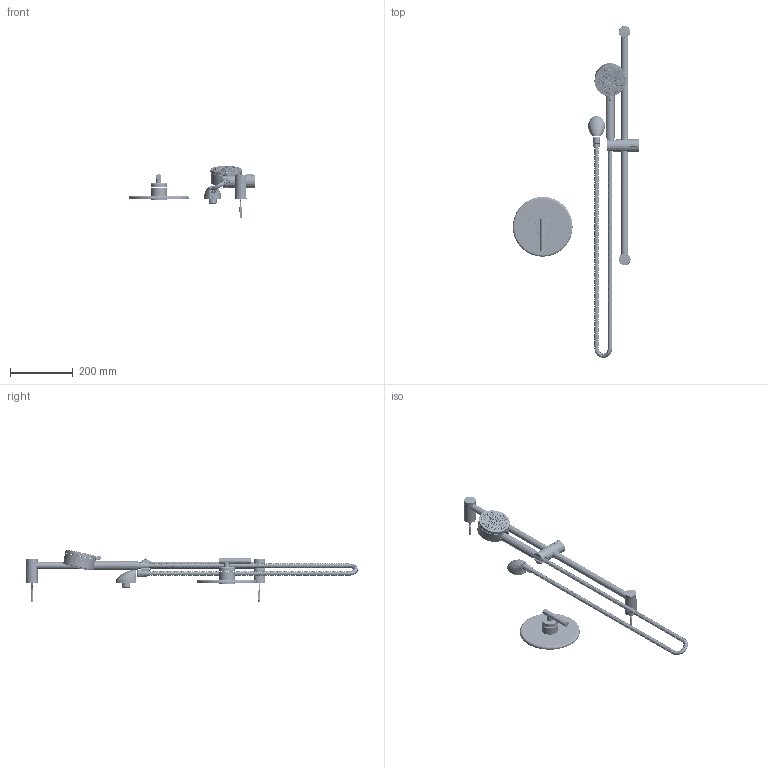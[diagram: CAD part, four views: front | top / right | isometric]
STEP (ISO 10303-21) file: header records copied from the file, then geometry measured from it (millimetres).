
FILE_DESCRIPTION (( 'STEP AP214' ), '1' );
FILE_NAME ('3593BTRM.STEP', '2025-01-15T06:15:39', ( '' ), ( '' ), 'SwSTEP 2.0', 'SolidWorks 2023', '' );
FILE_SCHEMA (( 'AUTOMOTIVE_DESIGN' ));
Products named in the file (1): 3593BTRM
Bounding box: 402.68 x 1057.64 x 165.88 mm (x, y, z)
Surface area: 419096.3 mm2 (no closed solid volume)
Topology: 0 solids, 193 shells, 1556 faces, 5545 edges, 4105 vertices
Faces by surface type: cylinder 510, plane 389, bspline 337, cone 207, torus 83, sphere 30
Entity records: 274077 total; most frequent: CARTESIAN_POINT 232793, ORIENTED_EDGE 8403, DIRECTION 6831, EDGE_CURVE 5539, VERTEX_POINT 4105, AXIS2_PLACEMENT_3D 2602, B_SPLINE_CURVE_WITH_KNOTS 2293, EDGE_LOOP 1894
